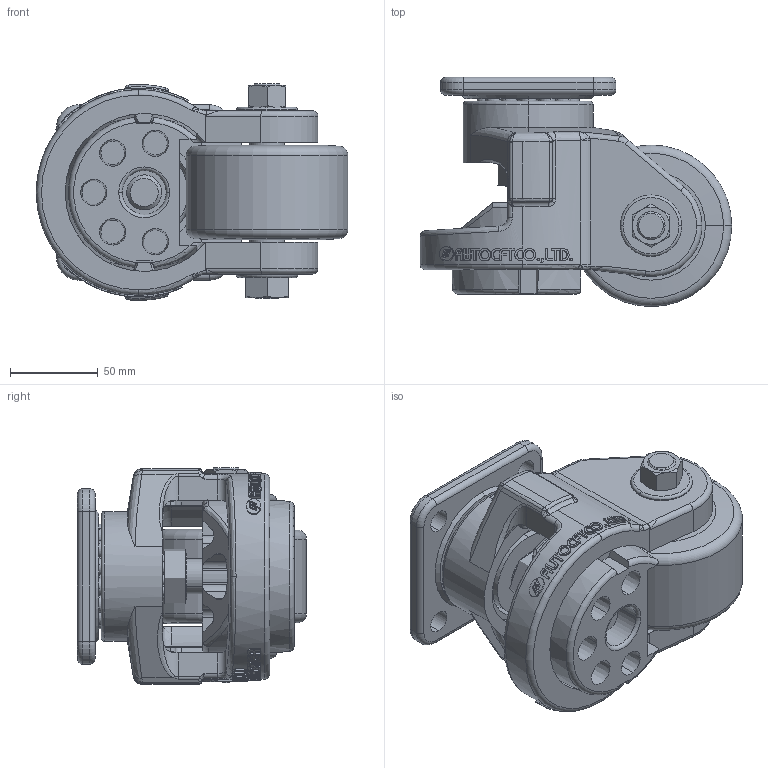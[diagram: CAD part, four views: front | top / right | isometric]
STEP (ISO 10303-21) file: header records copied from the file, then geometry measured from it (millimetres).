
FILE_DESCRIPTION (( 'STEP AP203' ), '1' );
FILE_NAME ('AC-1800F(Bearing).STEP', '2015-09-09T01:21:04', ( 'WON SINCHUL' ), ( 'Hewlett-Packard Company' ), 'SwSTEP 2.0', 'SolidWorks 2015', '' );
FILE_SCHEMA (( 'CONFIG_CONTROL_DESIGN' ));
Length unit declared in the file: millimetre
Products named in the file (1): AC-1800F(Bearing)
Bounding box: 177.5 x 130.5 x 123.5 mm (x, y, z)
Volume: 1079719 mm3; surface area: 202410.4 mm2
Topology: 27 solids, 27 shells, 2374 faces, 6634 edges, 4363 vertices
Faces by surface type: bspline 1453, plane 471, cylinder 269, torus 86, cone 53, sphere 42
Entity records: 90596 total; most frequent: CARTESIAN_POINT 42623, ORIENTED_EDGE 13050, EDGE_CURVE 6525, DIRECTION 4809, B_SPLINE_CURVE_WITH_KNOTS 4428, VERTEX_POINT 4306, EDGE_LOOP 2501, ADVANCED_FACE 2374
